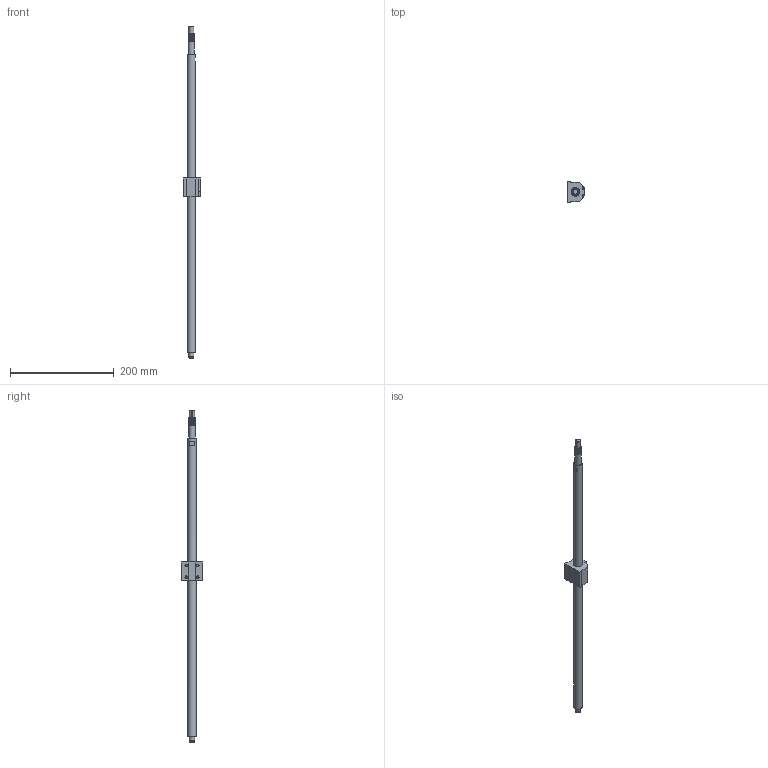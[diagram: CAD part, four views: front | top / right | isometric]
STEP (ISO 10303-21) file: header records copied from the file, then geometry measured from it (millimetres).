
FILE_DESCRIPTION(/* description */ (''),/* implementation_level */ '2;1');
FILE_NAME(/* name */ 'BSG483_asm1.stp',/* time_stamp */ '2017-01-17T15:36:28+08:00',/* author */ (''),/* organization */ (''),/* preprocessor_version */ 'ST-DEVELOPER v15',/* originating_system */ 'SIEMENS PLM Software NX 8.5',/* authorisation */ '');
FILE_SCHEMA (('AUTOMOTIVE_DESIGN { 1 0 10303 214 3 1 1 1 }'));
Length unit declared in the file: millimetre
Products named in the file (3): 01; BSG127; BSG483_asm1
Assembly tree (2 placements, depth 2):
  BSG483_asm1
    BSG127
    01
Bounding box: 34.5 x 42 x 640 mm (x, y, z)
Volume: 154176.8 mm3; surface area: 41861.9 mm2
Topology: 2 solids, 2 shells, 90 faces, 222 edges, 150 vertices
Faces by surface type: plane 47, cylinder 31, cone 6, torus 4, bspline 2
Full cylindrical faces by diameter (mm): 3.5 x2, 4.2 x4, 5 x5, 6 x3, 9.6 x1, 10 x3, 12 x8, 16 x2
Entity records: 3480 total; most frequent: CARTESIAN_POINT 1728, DIRECTION 344, ORIENTED_EDGE 286, EDGE_CURVE 143, EDGE_LOOP 136, AXIS2_PLACEMENT_3D 135, VERTEX_POINT 115, FACE_BOUND 110
